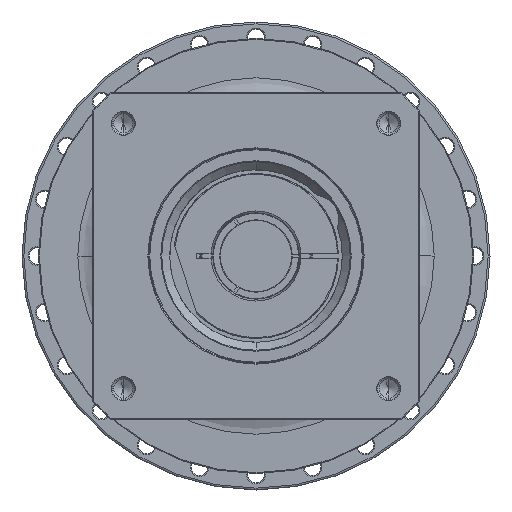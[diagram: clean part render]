
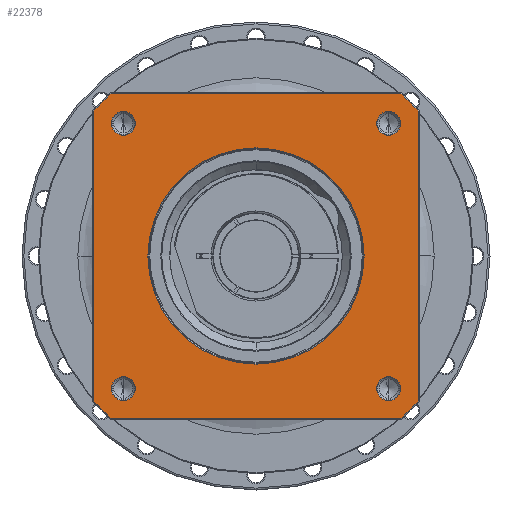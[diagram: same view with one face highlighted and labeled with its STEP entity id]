
A CAD part, left-side view. The second image highlights one B-rep face of the part: STEP entity #22378.
In plain terms, the highlighted planar face has unit normal (-1, 0, 0) as drawn and (0, 0, 1) by its records, which use the part's own axes.
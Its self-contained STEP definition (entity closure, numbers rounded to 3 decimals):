
#21129=CARTESIAN_POINT('',(0.,0.,
76.));
#21130=DIRECTION('',(0.,0.,-1.));
#21131=DIRECTION('',(0.,-1.,0.));
#21132=AXIS2_PLACEMENT_3D('',#21129,#21130,#21131);
#21134=CARTESIAN_POINT('',(0.,0.,
76.));
#21135=DIRECTION('',(0.,0.,-1.));
#21136=DIRECTION('',(0.,1.,0.));
#21137=AXIS2_PLACEMENT_3D('',#21134,#21135,#21136);
#21139=CARTESIAN_POINT('',(0.,0.,76.));
#21140=DIRECTION('',(0.,0.,1.));
#21141=DIRECTION('',(-0.746,-0.666,0.));
#21142=AXIS2_PLACEMENT_3D('',#21139,#21140,#21141);
#21154=DIRECTION('',(1.,0.,0.));
#21155=VECTOR('',#21154,154.58);
#21156=CARTESIAN_POINT('',(-77.29,-86.5,76.));
#21157=LINE('',#21156,#21155);
#21167=CARTESIAN_POINT('',(0.,0.,76.));
#21168=DIRECTION('',(0.,0.,1.));
#21169=DIRECTION('',(0.666,-0.746,0.));
#21170=AXIS2_PLACEMENT_3D('',#21167,#21168,#21169);
#21182=DIRECTION('',(0.,1.,0.));
#21183=VECTOR('',#21182,154.58);
#21184=CARTESIAN_POINT('',(86.5,-77.29,76.));
#21185=LINE('',#21184,#21183);
#21195=CARTESIAN_POINT('',(0.,0.,76.));
#21196=DIRECTION('',(0.,0.,1.));
#21197=DIRECTION('',(0.746,0.666,0.));
#21198=AXIS2_PLACEMENT_3D('',#21195,#21196,#21197);
#21210=DIRECTION('',(-1.,0.,0.));
#21211=VECTOR('',#21210,154.58);
#21212=CARTESIAN_POINT('',(77.29,86.5,76.));
#21213=LINE('',#21212,#21211);
#21218=CARTESIAN_POINT('',(0.,0.,76.));
#21219=DIRECTION('',(0.,0.,1.));
#21220=DIRECTION('',(-0.666,0.746,0.));
#21221=AXIS2_PLACEMENT_3D('',#21218,#21219,#21220);
#21238=DIRECTION('',(0.,-1.,0.));
#21239=VECTOR('',#21238,154.58);
#21240=CARTESIAN_POINT('',(-86.5,77.29,76.));
#21241=LINE('',#21240,#21239);
#21324=CARTESIAN_POINT('',(-70.711,70.711,76.));
#21325=DIRECTION('',(0.,0.,1.));
#21326=DIRECTION('',(-1.,0.,0.));
#21327=AXIS2_PLACEMENT_3D('',#21324,#21325,#21326);
#21342=CARTESIAN_POINT('',(-70.711,70.711,76.));
#21343=DIRECTION('',(0.,0.,1.));
#21344=DIRECTION('',(1.,0.,0.));
#21345=AXIS2_PLACEMENT_3D('',#21342,#21343,#21344);
#21378=CARTESIAN_POINT('',(70.711,70.711,76.));
#21379=DIRECTION('',(0.,0.,1.));
#21380=DIRECTION('',(-1.,0.,0.));
#21381=AXIS2_PLACEMENT_3D('',#21378,#21379,#21380);
#21396=CARTESIAN_POINT('',(70.711,70.711,76.));
#21397=DIRECTION('',(0.,0.,1.));
#21398=DIRECTION('',(1.,0.,0.));
#21399=AXIS2_PLACEMENT_3D('',#21396,#21397,#21398);
#21432=CARTESIAN_POINT('',(70.711,-70.711,76.));
#21433=DIRECTION('',(0.,0.,1.));
#21434=DIRECTION('',(-1.,0.,0.));
#21435=AXIS2_PLACEMENT_3D('',#21432,#21433,#21434);
#21450=CARTESIAN_POINT('',(70.711,-70.711,76.));
#21451=DIRECTION('',(0.,0.,1.));
#21452=DIRECTION('',(1.,0.,0.));
#21453=AXIS2_PLACEMENT_3D('',#21450,#21451,#21452);
#21486=CARTESIAN_POINT('',(-70.711,-70.711,76.));
#21487=DIRECTION('',(0.,0.,1.));
#21488=DIRECTION('',(-1.,0.,0.));
#21489=AXIS2_PLACEMENT_3D('',#21486,#21487,#21488);
#21504=CARTESIAN_POINT('',(-70.711,-70.711,76.));
#21505=DIRECTION('',(0.,0.,1.));
#21506=DIRECTION('',(1.,0.,0.));
#21507=AXIS2_PLACEMENT_3D('',#21504,#21505,#21506);
#21636=CARTESIAN_POINT('',(86.5,-77.29,76.));
#21637=CARTESIAN_POINT('',(86.5,77.29,76.));
#21638=VERTEX_POINT('',#21636);
#21639=VERTEX_POINT('',#21637);
#21644=CARTESIAN_POINT('',(77.29,-86.5,76.));
#21645=VERTEX_POINT('',#21644);
#21648=CARTESIAN_POINT('',(-77.29,-86.5,76.));
#21649=VERTEX_POINT('',#21648);
#21652=CARTESIAN_POINT('',(-86.5,-77.29,76.));
#21653=VERTEX_POINT('',#21652);
#21656=CARTESIAN_POINT('',(-86.5,77.29,76.));
#21657=VERTEX_POINT('',#21656);
#21660=CARTESIAN_POINT('',(-77.29,86.5,76.));
#21661=VERTEX_POINT('',#21660);
#21664=CARTESIAN_POINT('',(77.29,86.5,76.));
#21665=VERTEX_POINT('',#21664);
#21674=CARTESIAN_POINT('',(-77.111,70.711,76.));
#21675=CARTESIAN_POINT('',(-64.311,70.711,76.));
#21676=VERTEX_POINT('',#21674);
#21677=VERTEX_POINT('',#21675);
#21700=CARTESIAN_POINT('',(77.111,70.711,76.));
#21701=CARTESIAN_POINT('',(64.311,70.711,76.));
#21702=VERTEX_POINT('',#21700);
#21703=VERTEX_POINT('',#21701);
#21708=CARTESIAN_POINT('',(77.111,-70.711,76.));
#21709=CARTESIAN_POINT('',(64.311,-70.711,76.));
#21710=VERTEX_POINT('',#21708);
#21711=VERTEX_POINT('',#21709);
#21716=CARTESIAN_POINT('',(-64.311,-70.711,76.));
#21717=CARTESIAN_POINT('',(-77.111,-70.711,76.));
#21718=VERTEX_POINT('',#21716);
#21719=VERTEX_POINT('',#21717);
#21724=CARTESIAN_POINT('',(0.,-57.65,76.));
#21725=CARTESIAN_POINT('',(0.,57.65,
76.));
#21726=VERTEX_POINT('',#21724);
#21727=VERTEX_POINT('',#21725);
#22326=CARTESIAN_POINT('',(0.,0.,76.));
#22327=DIRECTION('',(0.,0.,1.));
#22328=DIRECTION('',(1.,0.,0.));
#22329=AXIS2_PLACEMENT_3D('',#22326,#22327,#22328);
#22330=PLANE('',#22329);
#22332=ORIENTED_EDGE('',*,*,#22331,.F.);
#22334=ORIENTED_EDGE('',*,*,#22333,.F.);
#22336=ORIENTED_EDGE('',*,*,#22335,.F.);
#22338=ORIENTED_EDGE('',*,*,#22337,.F.);
#22340=ORIENTED_EDGE('',*,*,#22339,.F.);
#22342=ORIENTED_EDGE('',*,*,#22341,.F.);
#22344=ORIENTED_EDGE('',*,*,#22343,.F.);
#22346=ORIENTED_EDGE('',*,*,#22345,.F.);
#22347=EDGE_LOOP('',(#22332,#22334,#22336,#22338,#22340,#22342,#22344,#22346));
#22348=FACE_OUTER_BOUND('',#22347,.F.);
#22349=ORIENTED_EDGE('',*,*,#22316,.F.);
#22351=ORIENTED_EDGE('',*,*,#22350,.F.);
#22352=EDGE_LOOP('',(#22349,#22351));
#22353=FACE_BOUND('',#22352,.F.);
#22355=ORIENTED_EDGE('',*,*,#22354,.T.);
#22357=ORIENTED_EDGE('',*,*,#22356,.T.);
#22358=EDGE_LOOP('',(#22355,#22357));
#22359=FACE_BOUND('',#22358,.F.);
#22361=ORIENTED_EDGE('',*,*,#22360,.T.);
#22363=ORIENTED_EDGE('',*,*,#22362,.T.);
#22364=EDGE_LOOP('',(#22361,#22363));
#22365=FACE_BOUND('',#22364,.F.);
#22367=ORIENTED_EDGE('',*,*,#22366,.T.);
#22369=ORIENTED_EDGE('',*,*,#22368,.T.);
#22370=EDGE_LOOP('',(#22367,#22369));
#22371=FACE_BOUND('',#22370,.F.);
#22373=ORIENTED_EDGE('',*,*,#22372,.T.);
#22375=ORIENTED_EDGE('',*,*,#22374,.T.);
#22376=EDGE_LOOP('',(#22373,#22375));
#22377=FACE_BOUND('',#22376,.F.);
#22378=ADVANCED_FACE('',(#22348,#22353,#22359,#22365,#22371,#22377),#22330,.T.);
#21133=CIRCLE('',#21132,57.65);
#21138=CIRCLE('',#21137,57.65);
#21143=CIRCLE('',#21142,116.);
#21171=CIRCLE('',#21170,116.);
#21199=CIRCLE('',#21198,116.);
#21222=CIRCLE('',#21221,116.);
#21328=CIRCLE('',#21327,6.4);
#21346=CIRCLE('',#21345,6.4);
#21382=CIRCLE('',#21381,6.4);
#21400=CIRCLE('',#21399,6.4);
#21436=CIRCLE('',#21435,6.4);
#21454=CIRCLE('',#21453,6.4);
#21490=CIRCLE('',#21489,6.4);
#21508=CIRCLE('',#21507,6.4);
#22316=EDGE_CURVE('',#21726,#21727,#21133,.T.);
#22331=EDGE_CURVE('',#21653,#21649,#21143,.T.);
#22333=EDGE_CURVE('',#21657,#21653,#21241,.T.);
#22335=EDGE_CURVE('',#21661,#21657,#21222,.T.);
#22337=EDGE_CURVE('',#21665,#21661,#21213,.T.);
#22339=EDGE_CURVE('',#21639,#21665,#21199,.T.);
#22341=EDGE_CURVE('',#21638,#21639,#21185,.T.);
#22343=EDGE_CURVE('',#21645,#21638,#21171,.T.);
#22345=EDGE_CURVE('',#21649,#21645,#21157,.T.);
#22350=EDGE_CURVE('',#21727,#21726,#21138,.T.);
#22354=EDGE_CURVE('',#21676,#21677,#21328,.T.);
#22356=EDGE_CURVE('',#21677,#21676,#21346,.T.);
#22360=EDGE_CURVE('',#21703,#21702,#21382,.T.);
#22362=EDGE_CURVE('',#21702,#21703,#21400,.T.);
#22366=EDGE_CURVE('',#21711,#21710,#21436,.T.);
#22368=EDGE_CURVE('',#21710,#21711,#21454,.T.);
#22372=EDGE_CURVE('',#21719,#21718,#21490,.T.);
#22374=EDGE_CURVE('',#21718,#21719,#21508,.T.);
